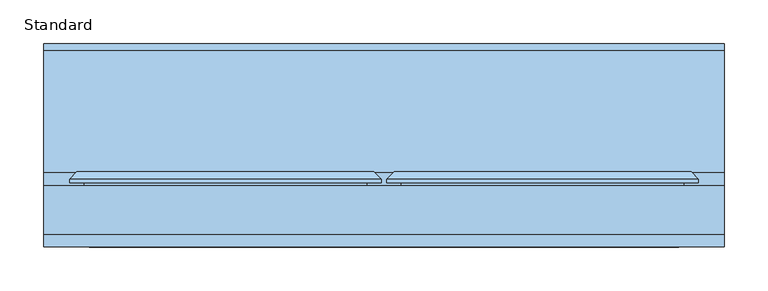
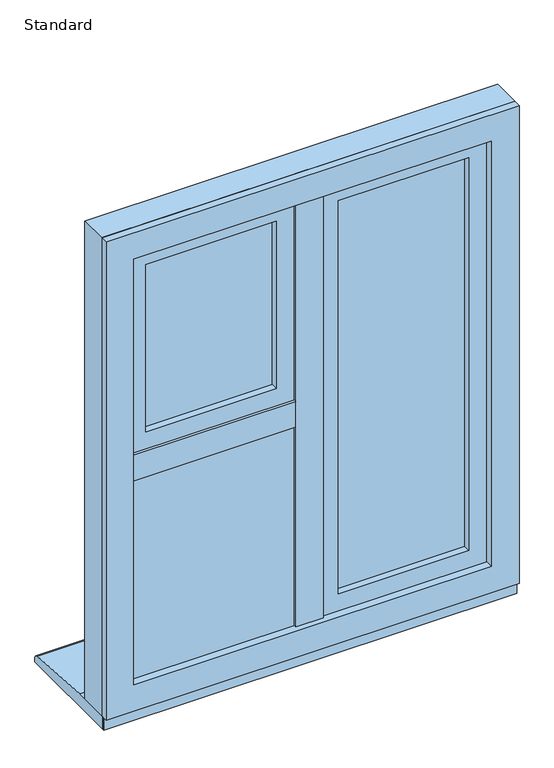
"""IFC4 building model written with IfcOpenShell, lengths in millimetres: window geometry, SMARTS_Alitherm600 : Standard."""

from ifc_helpers import new_model, si_unit, point, frame, frame_2d, origin, place, context, project, spatial, polyline, circle_curve, trimmed, segment, composite_curve, outline, extrude, faceted_brep, source, transform, mapped, element, save


def standard_0d5434f7(model_context):
    return source(origin(), model_context, "Body", "SolidModel", [
        extrude(outline(polyline([(-9.4, 102.8298432), (9.4, 102.8298432), (9.4, 47.2458572), (-9.4, 47.2458572), (-9.4, 102.8298432)])), frame((0.0, 0.0, 670.8979117), z_axis=(0.0, 0.0, 1.0), x_axis=(1.0, 0.0, 0.0)), (0.0, 0.0, 1.0), 883.2041766),
        extrude(outline(polyline([(-25.9020883, 47.2458572), (25.9020883, 47.2458572), (25.9020883, 43.2798432), (-25.9020883, 43.2798432), (-25.9020883, 47.2458572)])), frame((0.0, 0.0, 687.4), z_axis=(0.0, 0.0, 1.0), x_axis=(1.0, 0.0, 0.0)), (0.0, 0.0, 1.0), 850.2),
        extrude(outline(polyline([(-9.4979117, 102.8298432), (-9.4979117, 47.2458572), (-354.1020883, 47.2458572), (-354.1020883, 102.8298432), (-9.4979117, 102.8298432)])), frame((0.0, 0.0, 1103.1), z_axis=(0.0, 0.0, 1.0), x_axis=(1.0, 0.0, 0.0)), (0.0, 0.0, 1.0), 18.8),
        extrude(outline(polyline([(-26.0, 47.2458572), (-26.0, 43.2798432), (-337.6, 43.2798432), (-337.6, 47.2458572), (-26.0, 47.2458572)])), frame((0.0, 0.0, 1086.5979117), z_axis=(0.0, 0.0, 1.0), x_axis=(1.0, 0.0, 0.0)), (0.0, 0.0, 1.0), 51.8041766),
        extrude(outline(polyline([(-352.6, 77.7798432), (-11.0, 77.7798432), (-11.0, 73.7798432), (-352.6, 73.7798432), (-352.6, 77.7798432)])), frame((0.0, 0.0, 672.4), z_axis=(0.0, 0.0, 1.0), x_axis=(1.0, 0.0, 0.0)), (0.0, 0.0, 1.0), 429.1),
        extrude(outline(polyline([(-352.6, 57.7798432), (-11.0, 57.7798432), (-11.0, 53.7798432), (-352.6, 53.7798432), (-352.6, 57.7798432)])), frame((0.0, 0.0, 672.4), z_axis=(0.0, 0.0, 1.0), x_axis=(1.0, 0.0, 0.0)), (0.0, 0.0, 1.0), 429.1),
        extrude(outline(polyline([(1101.5, -352.6), (672.4, -352.6), (672.4, -11.0), (1101.5, -11.0), (1101.5, -352.6)]), holes=[polyline([(1091.5, -21.0), (682.4, -21.0), (682.4, -342.6), (1091.5, -342.6), (1091.5, -21.0)])]), frame((0.0, 57.7798432, 0.0), z_axis=(0.0, 1.0, 0.0), x_axis=(0.0, 0.0, 1.0)), (0.0, 0.0, 1.0), 16.0),
        faceted_brep([(-349.4160653, 102.7798432, 1098.3160653), (-337.2339746, 81.6798432, 1086.1339746), (-337.2339746, 81.6798432, 687.7660254), (-349.4160653, 102.7798432, 675.5839347), (-26.3660254, 81.6798432, 687.7660254), (-14.1839347, 102.7798432, 675.5839347), (-26.3660254, 81.6798432, 1086.1339746), (-14.1839347, 102.7798432, 1098.3160653), (-9.5, 81.6798432, 1103.0), (-9.5, 102.7798432, 1103.0), (-354.1, 102.7798432, 1103.0), (-354.1, 81.6798432, 1103.0), (-354.1, 102.7798432, 670.9), (-354.1, 81.6798432, 670.9), (-9.5, 102.7798432, 670.9), (-9.5, 81.6798432, 670.9)], [[[0, 1, 2, 3]], [[3, 2, 4, 5]], [[5, 4, 6, 7]], [[7, 6, 1, 0]], [[8, 9, 10, 11]], [[11, 10, 12, 13]], [[13, 12, 14, 15]], [[9, 14, 12, 10], [0, 3, 5, 7]], [[15, 14, 9, 8]], [[11, 13, 15, 8], [6, 4, 2, 1]]]),
        extrude(outline(polyline([(1516.6, -316.6), (1159.5, -316.6), (1159.5, -47.0), (1516.6, -47.0), (1516.6, -316.6)]), holes=[polyline([(1506.6, -57.0), (1169.5, -57.0), (1169.5, -306.6), (1506.6, -306.6), (1506.6, -57.0)])]), frame((0.0, 72.3211351, 0.0), z_axis=(0.0, 1.0, 0.0), x_axis=(0.0, 0.0, 1.0)), (0.0, 0.0, 1.0), 16.0),
        extrude(outline(polyline([(-316.6, 92.3211351), (-47.0, 92.3211351), (-47.0, 88.3211351), (-316.6, 88.3211351), (-316.6, 92.3211351)])), frame((0.0, 0.0, 1159.5), z_axis=(0.0, 0.0, 1.0), x_axis=(1.0, 0.0, 0.0)), (0.0, 0.0, 1.0), 357.1),
        extrude(outline(polyline([(-316.6, 72.3211351), (-47.0, 72.3211351), (-47.0, 68.3211351), (-316.6, 68.3211351), (-316.6, 72.3211351)])), frame((0.0, 0.0, 1159.5), z_axis=(0.0, 0.0, 1.0), x_axis=(1.0, 0.0, 0.0)), (0.0, 0.0, 1.0), 357.1),
        faceted_brep([(-46.6778853, 118.8818325, 1516.9221147), (-58.859976, 97.7818325, 1504.740024), (-304.740024, 97.7818325, 1504.740024), (-316.9221147, 118.8818325, 1516.9221147), (-41.9939506, 97.7818325, 1521.6060494), (-41.9939506, 118.8818325, 1521.6060494), (-321.6060494, 118.8818325, 1521.6060494), (-321.6060494, 97.7818325, 1521.6060494), (-304.740024, 97.7818325, 1171.359976), (-316.9221147, 118.8818325, 1159.1778853), (-321.6060494, 118.8818325, 1154.4939506), (-321.6060494, 97.7818325, 1154.4939506), (-58.859976, 97.7818325, 1171.359976), (-46.6778853, 118.8818325, 1159.1778853), (-41.9939506, 118.8818325, 1154.4939506), (-41.9939506, 97.7818325, 1154.4939506)], [[[0, 1, 2, 3]], [[4, 5, 6, 7]], [[3, 2, 8, 9]], [[7, 6, 10, 11]], [[9, 8, 12, 13]], [[11, 10, 14, 15]], [[13, 12, 1, 0]], [[5, 14, 10, 6], [3, 9, 13, 0]], [[15, 14, 5, 4]], [[7, 11, 15, 4], [1, 12, 8, 2]]]),
        extrude(outline(polyline([(1132.652908, -343.447092), (1132.652908, -20.152908), (1543.447092, -20.152908), (1543.447092, -343.447092), (1132.652908, -343.447092)]), holes=[polyline([(1505.1, -305.1), (1505.1, -58.5), (1171.0, -58.5), (1171.0, -305.1), (1505.1, -305.1)])]), frame((0.0, 50.2798432, 0.0), z_axis=(0.0, 1.0, 0.0), x_axis=(0.0, 0.0, 1.0)), (0.0, 0.0, 1.0), 13.0853156),
        faceted_brep([(-321.6060494, 118.8818325, 1521.6060494), (-321.6060494, 63.3651588, 1521.6060494), (-321.6060494, 63.3651588, 1154.4939506), (-321.6060494, 118.8818325, 1154.4939506), (-41.9939506, 63.3651588, 1154.4939506), (-41.9939506, 118.8818325, 1154.4939506), (-41.9939506, 63.3651588, 1521.6060494), (-41.9939506, 118.8818325, 1521.6060494), (-360.3358988, 106.2818325, 1560.3358988), (-360.3358988, 110.3519831, 1560.3358988), (-360.3358988, 110.3519831, 1115.7641012), (-360.3358988, 106.2818325, 1115.7641012), (-3.2641012, 110.3519831, 1115.7641012), (-3.2641012, 106.2818325, 1115.7641012), (-3.2641012, 110.3519831, 1560.3358988), (-3.2641012, 106.2818325, 1560.3358988), (-343.7467657, 106.2818325, 1543.7467657), (-19.8532343, 106.2818325, 1543.7467657), (-19.8532343, 106.2818325, 1132.3532343), (-343.7467657, 106.2818325, 1132.3532343), (-351.8060494, 118.8818325, 1551.8060494), (-11.7939506, 118.8818325, 1551.8060494), (-11.7939506, 118.8818325, 1124.2939506), (-351.8060494, 118.8818325, 1124.2939506), (-343.7467657, 63.3651588, 1543.7467657), (-343.7467657, 63.3651588, 1132.3532343), (-19.8532343, 63.3651588, 1132.3532343), (-19.8532343, 63.3651588, 1543.7467657)], [[[0, 1, 2, 3]], [[3, 2, 4, 5]], [[5, 4, 6, 7]], [[7, 6, 1, 0]], [[8, 9, 10, 11]], [[11, 10, 12, 13]], [[13, 12, 14, 15]], [[11, 13, 15, 8], [16, 17, 18, 19]], [[15, 14, 9, 8]], [[20, 21, 22, 23], [3, 5, 7, 0]], [[24, 16, 19, 25]], [[25, 19, 18, 26]], [[26, 18, 17, 27]], [[25, 26, 27, 24], [1, 6, 4, 2]], [[27, 17, 16, 24]], [[9, 20, 23, 10]], [[10, 23, 22, 12]], [[12, 22, 21, 14]], [[14, 21, 20, 9]]]),
        extrude(outline(polyline([(1590.0, 390.0), (1590.0, -390.0), (635.0, -390.0), (635.0, 390.0), (1590.0, 390.0)]), holes=[polyline([(670.85, 354.15), (670.85, -354.15), (1554.15, -354.15), (1554.15, 354.15), (670.85, 354.15)])]), frame((0.0, 47.2798427, 0.0), z_axis=(0.0, 1.0, 0.0), x_axis=(0.0, 0.0, 1.0)), (0.0, 0.0, 1.0), 55.5500006),
        extrude(outline(polyline([(1590.0, 390.0), (1590.0, -390.0), (635.0, -390.0), (635.0, 390.0), (1590.0, 390.0)]), holes=[polyline([(687.35, 337.65), (687.35, -337.65), (1537.65, -337.65), (1537.65, 337.65), (687.35, 337.65)])]), frame((0.0, 32.8298432, 0.0), z_axis=(0.0, 1.0, 0.0), x_axis=(0.0, 0.0, 1.0)), (0.0, 0.0, 1.0), 14.4499994),
        extrude(outline(polyline([(1516.6, 47.0), (708.4, 47.0), (708.4, 316.6), (1516.6, 316.6), (1516.6, 47.0)]), holes=[polyline([(1506.6, 306.6), (718.4, 306.6), (718.4, 57.0), (1506.6, 57.0), (1506.6, 306.6)])]), frame((0.0, 72.3211351, 0.0), z_axis=(0.0, 1.0, 0.0), x_axis=(0.0, 0.0, 1.0)), (0.0, 0.0, 1.0), 16.0),
        extrude(outline(polyline([(47.0, 92.3211351), (316.6, 92.3211351), (316.6, 88.3211351), (47.0, 88.3211351), (47.0, 92.3211351)])), frame((0.0, 0.0, 708.4), z_axis=(0.0, 0.0, 1.0), x_axis=(1.0, 0.0, 0.0)), (0.0, 0.0, 1.0), 808.2),
        extrude(outline(polyline([(47.0, 72.3211351), (316.6, 72.3211351), (316.6, 68.3211351), (47.0, 68.3211351), (47.0, 72.3211351)])), frame((0.0, 0.0, 708.4), z_axis=(0.0, 0.0, 1.0), x_axis=(1.0, 0.0, 0.0)), (0.0, 0.0, 1.0), 808.2),
        faceted_brep([(316.9221147, 118.8818325, 1516.9221147), (304.740024, 97.7818325, 1504.740024), (58.859976, 97.7818325, 1504.740024), (46.6778853, 118.8818325, 1516.9221147), (321.6060494, 97.7818325, 1521.6060494), (321.6060494, 118.8818325, 1521.6060494), (41.9939506, 118.8818325, 1521.6060494), (41.9939506, 97.7818325, 1521.6060494), (58.859976, 97.7818325, 720.259976), (46.6778853, 118.8818325, 708.0778853), (41.9939506, 118.8818325, 703.3939506), (41.9939506, 97.7818325, 703.3939506), (304.740024, 97.7818325, 720.259976), (316.9221147, 118.8818325, 708.0778853), (321.6060494, 118.8818325, 703.3939506), (321.6060494, 97.7818325, 703.3939506)], [[[0, 1, 2, 3]], [[4, 5, 6, 7]], [[3, 2, 8, 9]], [[7, 6, 10, 11]], [[9, 8, 12, 13]], [[11, 10, 14, 15]], [[13, 12, 1, 0]], [[5, 14, 10, 6], [3, 9, 13, 0]], [[15, 14, 5, 4]], [[7, 11, 15, 4], [1, 12, 8, 2]]]),
        extrude(outline(polyline([(681.552908, 20.152908), (681.552908, 343.447092), (1543.447092, 343.447092), (1543.447092, 20.152908), (681.552908, 20.152908)]), holes=[polyline([(1505.1, 58.5), (1505.1, 305.1), (719.9, 305.1), (719.9, 58.5), (1505.1, 58.5)])]), frame((0.0, 50.2798432, 0.0), z_axis=(0.0, 1.0, 0.0), x_axis=(0.0, 0.0, 1.0)), (0.0, 0.0, 1.0), 13.0853156),
        faceted_brep([(41.9939506, 118.8818325, 1521.6060494), (41.9939506, 63.3651588, 1521.6060494), (41.9939506, 63.3651588, 703.3939506), (41.9939506, 118.8818325, 703.3939506), (321.6060494, 63.3651588, 703.3939506), (321.6060494, 118.8818325, 703.3939506), (321.6060494, 63.3651588, 1521.6060494), (321.6060494, 118.8818325, 1521.6060494), (3.2641012, 106.2818325, 1560.3358988), (3.2641012, 110.3519831, 1560.3358988), (3.2641012, 110.3519831, 664.6641012), (3.2641012, 106.2818325, 664.6641012), (360.3358988, 110.3519831, 664.6641012), (360.3358988, 106.2818325, 664.6641012), (360.3358988, 110.3519831, 1560.3358988), (360.3358988, 106.2818325, 1560.3358988), (19.8532343, 106.2818325, 1543.7467657), (343.7467657, 106.2818325, 1543.7467657), (343.7467657, 106.2818325, 681.2532343), (19.8532343, 106.2818325, 681.2532343), (11.7939506, 118.8818325, 1551.8060494), (351.8060494, 118.8818325, 1551.8060494), (351.8060494, 118.8818325, 673.1939506), (11.7939506, 118.8818325, 673.1939506), (19.8532343, 63.3651588, 1543.7467657), (19.8532343, 63.3651588, 681.2532343), (343.7467657, 63.3651588, 681.2532343), (343.7467657, 63.3651588, 1543.7467657)], [[[0, 1, 2, 3]], [[3, 2, 4, 5]], [[5, 4, 6, 7]], [[7, 6, 1, 0]], [[8, 9, 10, 11]], [[11, 10, 12, 13]], [[13, 12, 14, 15]], [[11, 13, 15, 8], [16, 17, 18, 19]], [[15, 14, 9, 8]], [[20, 21, 22, 23], [3, 5, 7, 0]], [[24, 16, 19, 25]], [[25, 19, 18, 26]], [[26, 18, 17, 27]], [[25, 26, 27, 24], [1, 6, 4, 2]], [[27, 17, 16, 24]], [[9, 20, 23, 10]], [[10, 23, 22, 12]], [[12, 22, 21, 14]], [[14, 21, 20, 9]]]),
        extrude(outline(polyline([(390.0, 43.2798432), (390.0, 40.7798432), (-390.0, 40.7798432), (-390.0, 43.2798432), (390.0, 43.2798432)])), frame((0.0, 0.0, 610.0), z_axis=(0.0, 0.0, 1.0), x_axis=(1.0, 0.0, 0.0)), (0.0, 0.0, 1.0), 31.0),
        extrude(outline(composite_curve([segment(polyline([(265.7798432, 610.0), (43.2798432, 610.0), (43.2798432, 635.0), (118.7798432, 635.0), (258.4770891, 625.9276664)]), True, "CONTINUOUS"), segment(trimmed(circle_curve(frame_2d((257.7798432, 617.9581088)), 8.0), [point((258.4770891, 625.9276664))], [point((265.7798432, 617.9581088))], False, "CARTESIAN"), True, "CONTINUOUS"), segment(polyline([(265.7798432, 617.9581088), (265.7798432, 610.0)]), True, "CONTINUOUS")], self_intersect=False)), frame((-390.0, 0.0, 0.0), z_axis=(1.0, 0.0, 0.0), x_axis=(0.0, 1.0, 0.0)), (0.0, 0.0, 1.0), 780.0),
    ])


if __name__ == "__main__":
    model = new_model("IFC4")
    model_context = context("Model", 3, world=origin())
    ifc_project = project(units=[si_unit("LENGTHUNIT", "METRE", prefix="MILLI")], contexts=[model_context])
    site = spatial("IfcSite", under=ifc_project)
    building = spatial("IfcBuilding", under=site)
    placement = place(None, origin())
    standard_shape = standard_0d5434f7(model_context)
    element("IfcWindow", 1, ObjectType="SMARTS_Alitherm600 : Standard", at=placement, inside=building, context=model_context, shape_type="MappedRepresentation", body=[
        mapped(standard_shape, transform((0.0, 0.0, 0.0), x_axis=(1.0, 0.0, 0.0), y_axis=(0.0, 1.0, 0.0), z_axis=(0.0, 0.0, 1.0))),
    ])
    save(model, "model.ifc")
